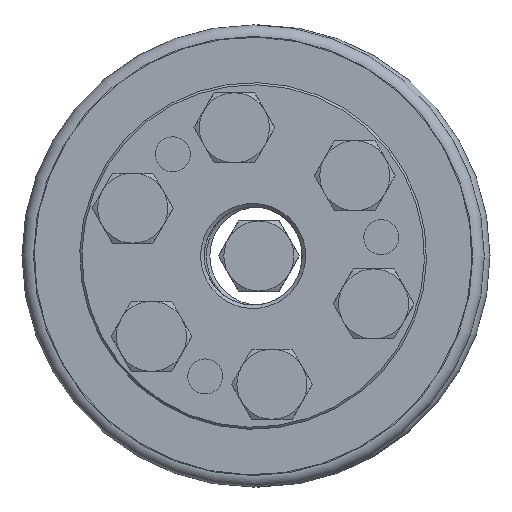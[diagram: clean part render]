
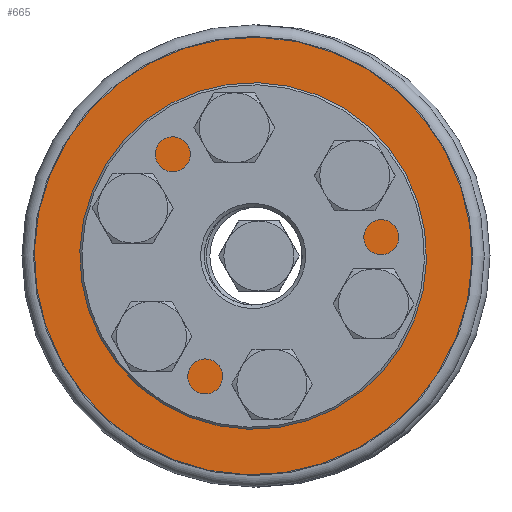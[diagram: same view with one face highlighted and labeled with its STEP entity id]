
A CAD part, left-side view. The second image highlights one B-rep face of the part: STEP entity #665.
In plain terms, the highlighted planar face has unit normal (-1, 0, 0) as drawn and (1, 0, 0) by its records, which use the part's own axes.
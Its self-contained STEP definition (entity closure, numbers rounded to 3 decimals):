
#665 = ADVANCED_FACE( 'NONE', ( #1004, #1005, #1006, #1007, #1008, #1009, #1010, #1011 ), #1012, .F. );
#1004 = FACE_OUTER_BOUND( '', #1286, .T. );
#1005 = FACE_BOUND( '', #1287, .T. );
#1006 = FACE_BOUND( '', #1288, .T. );
#1007 = FACE_BOUND( '', #1289, .T. );
#1008 = FACE_BOUND( '', #1290, .T. );
#1009 = FACE_BOUND( '', #1291, .T. );
#1010 = FACE_BOUND( '', #1292, .T. );
#1011 = FACE_BOUND( '', #1293, .T. );
#1012 = PLANE( '', #1294 );
#1286 = EDGE_LOOP( '', ( #1702 ) );
#1287 = EDGE_LOOP( '', ( #1703 ) );
#1288 = EDGE_LOOP( '', ( #1704 ) );
#1289 = EDGE_LOOP( '', ( #1705 ) );
#1290 = EDGE_LOOP( '', ( #1706 ) );
#1291 = EDGE_LOOP( '', ( #1707 ) );
#1292 = EDGE_LOOP( '', ( #1708 ) );
#1293 = EDGE_LOOP( '', ( #1709 ) );
#1294 = AXIS2_PLACEMENT_3D( '', #1710, #1711, #1712 );
#1702 = ORIENTED_EDGE( '', *, *, #2121, .F. );
#1703 = ORIENTED_EDGE( '', *, *, #2131, .F. );
#1704 = ORIENTED_EDGE( '', *, *, #2132, .T. );
#1705 = ORIENTED_EDGE( '', *, *, #2134, .F. );
#1706 = ORIENTED_EDGE( '', *, *, #2133, .F. );
#1707 = ORIENTED_EDGE( '', *, *, #2130, .F. );
#1708 = ORIENTED_EDGE( '', *, *, #2136, .F. );
#1709 = ORIENTED_EDGE( '', *, *, #2137, .F. );
#1710 = CARTESIAN_POINT( '', ( 16., 31.25, 0. ) );
#1711 = DIRECTION( '', ( -1., 0., 0. ) );
#1712 = DIRECTION( '', ( 0., 0., 1. ) );
#2121 = EDGE_CURVE( 'NONE', #2372, #2372, #2373, .T. );
#2130 = EDGE_CURVE( 'NONE', #2390, #2390, #2391, .T. );
#2131 = EDGE_CURVE( 'NONE', #2392, #2392, #2393, .T. );
#2132 = EDGE_CURVE( 'NONE', #2394, #2394, #2395, .T. );
#2133 = EDGE_CURVE( 'NONE', #2396, #2396, #2397, .T. );
#2134 = EDGE_CURVE( 'NONE', #2398, #2398, #2399, .T. );
#2136 = EDGE_CURVE( 'NONE', #2402, #2402, #2403, .T. );
#2137 = EDGE_CURVE( 'NONE', #2404, #2404, #2405, .T. );
#2372 = VERTEX_POINT( '', #2626 );
#2373 = CIRCLE( '', #2627, 31.25 );
#2390 = VERTEX_POINT( '', #2644 );
#2391 = CIRCLE( '', #2645, 3. );
#2392 = VERTEX_POINT( '', #2646 );
#2393 = CIRCLE( '', #2647, 3. );
#2394 = VERTEX_POINT( '', #2648 );
#2395 = CIRCLE( '', #2649, 15.1 );
#2396 = VERTEX_POINT( '', #2650 );
#2397 = CIRCLE( '', #2651, 3. );
#2398 = VERTEX_POINT( '', #2652 );
#2399 = CIRCLE( '', #2653, 3. );
#2402 = VERTEX_POINT( '', #2656 );
#2403 = CIRCLE( '', #2657, 3. );
#2404 = VERTEX_POINT( '', #2658 );
#2405 = CIRCLE( '', #2659, 3. );
#2626 = CARTESIAN_POINT( '', ( 16., 0., 31.25 ) );
#2627 = AXIS2_PLACEMENT_3D( '', #2866, #2867, #2868 );
#2644 = CARTESIAN_POINT( '', ( 16., -9.25, -19.021 ) );
#2645 = AXIS2_PLACEMENT_3D( '', #2893, #2894, #2895 );
#2646 = CARTESIAN_POINT( '', ( 16., -9.25, 13.021 ) );
#2647 = AXIS2_PLACEMENT_3D( '', #2896, #2897, #2898 );
#2648 = CARTESIAN_POINT( '', ( 16., 0., 15.1 ) );
#2649 = AXIS2_PLACEMENT_3D( '', #2899, #2900, #2901 );
#2650 = CARTESIAN_POINT( '', ( 16., 9.25, -19.021 ) );
#2651 = AXIS2_PLACEMENT_3D( '', #2902, #2903, #2904 );
#2652 = CARTESIAN_POINT( '', ( 16., 18.5, -3. ) );
#2653 = AXIS2_PLACEMENT_3D( '', #2905, #2906, #2907 );
#2656 = CARTESIAN_POINT( '', ( 16., -18.5, -3. ) );
#2657 = AXIS2_PLACEMENT_3D( '', #2911, #2912, #2913 );
#2658 = CARTESIAN_POINT( '', ( 16., 9.25, 13.021 ) );
#2659 = AXIS2_PLACEMENT_3D( '', #2914, #2915, #2916 );
#2866 = CARTESIAN_POINT( '', ( 16., 0., 0. ) );
#2867 = DIRECTION( '', ( -1., 0., 0. ) );
#2868 = DIRECTION( '', ( 0., 0., 1. ) );
#2893 = CARTESIAN_POINT( '', ( 16., -9.25, -16.021 ) );
#2894 = DIRECTION( '', ( 1., 0., 0. ) );
#2895 = DIRECTION( '', ( 0., 0., -1. ) );
#2896 = CARTESIAN_POINT( '', ( 16., -9.25, 16.021 ) );
#2897 = DIRECTION( '', ( 1., 0., 0. ) );
#2898 = DIRECTION( '', ( 0., 0., -1. ) );
#2899 = CARTESIAN_POINT( '', ( 16., 0., 0. ) );
#2900 = DIRECTION( '', ( -1., 0., 0. ) );
#2901 = DIRECTION( '', ( 0., 0., 1. ) );
#2902 = CARTESIAN_POINT( '', ( 16., 9.25, -16.021 ) );
#2903 = DIRECTION( '', ( 1., 0., 0. ) );
#2904 = DIRECTION( '', ( 0., 0., -1. ) );
#2905 = CARTESIAN_POINT( '', ( 16., 18.5, 0. ) );
#2906 = DIRECTION( '', ( 1., 0., 0. ) );
#2907 = DIRECTION( '', ( 0., 0., -1. ) );
#2911 = CARTESIAN_POINT( '', ( 16., -18.5, 0. ) );
#2912 = DIRECTION( '', ( 1., 0., 0. ) );
#2913 = DIRECTION( '', ( 0., 0., -1. ) );
#2914 = CARTESIAN_POINT( '', ( 16., 9.25, 16.021 ) );
#2915 = DIRECTION( '', ( 1., 0., 0. ) );
#2916 = DIRECTION( '', ( 0., 0., -1. ) );
